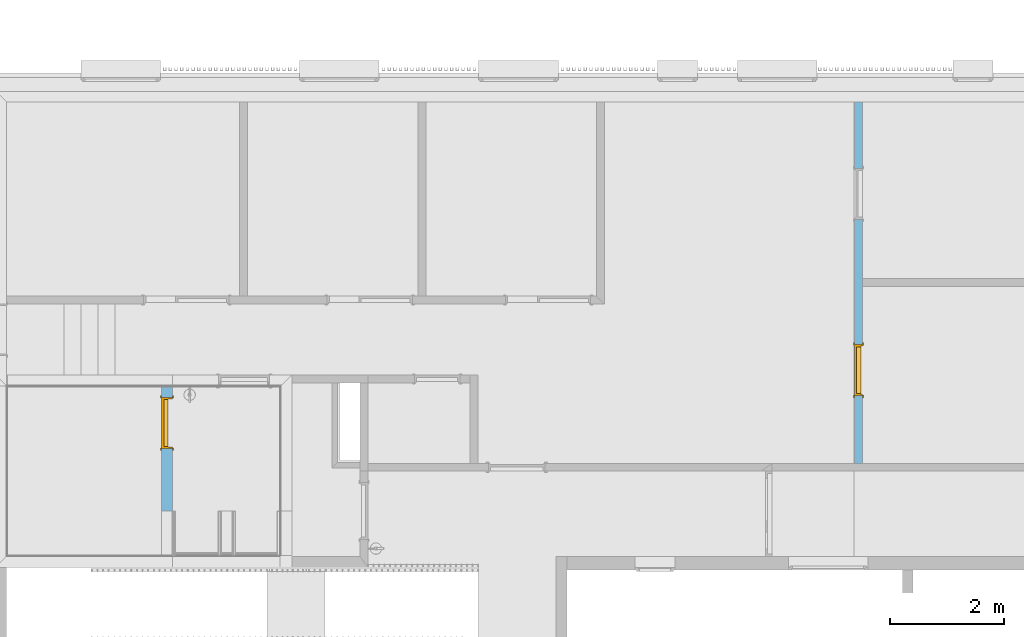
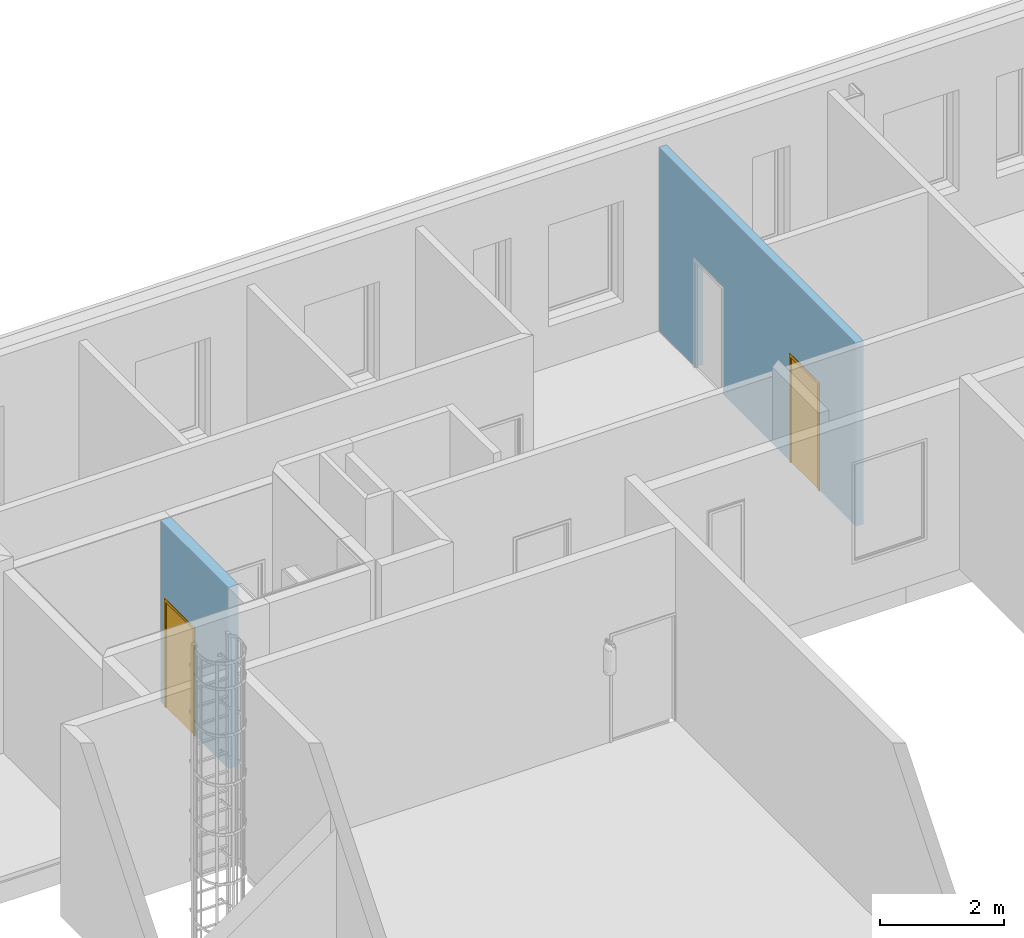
# One storey, part 53 of 100: 2 doors, 3 openings, plus 2 elements that do not belong to this part.
"""IFC2X3 building model written with IfcOpenShell, lengths in millimetres."""

from ifc_helpers import new_model, entity, si_unit, converted_unit, derived_unit, money_unit, direction, frame, origin_with_axes, origin_2d_with_axis, place, context, subcontext, project, spatial, polyline, rectangle, outline, extrude, faceted_brep, material, layer, layer_set, layer_usage, type_object, element, fill, save


model = new_model("IFC2X3")

# Units and contexts
model_context = context("Model", 3, precision=0.01, world=origin_with_axes(), true_north=direction((0.0, 1.0)))
body_context = subcontext(model_context, "Body", "Model", "MODEL_VIEW")
ifc_project = project(units=[si_unit("LENGTHUNIT", "METRE", prefix="MILLI"), si_unit("AREAUNIT", "SQUARE_METRE"), si_unit("VOLUMEUNIT", "CUBIC_METRE"), converted_unit("PLANEANGLEUNIT", "DEGREE", entity("IfcPlaneAngleMeasure", 0.0174532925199), si_unit("PLANEANGLEUNIT", "RADIAN"), dimensions=[0, 0, 0, 0, 0, 0, 0]), si_unit("SOLIDANGLEUNIT", "STERADIAN"), money_unit("EUR"), converted_unit("TIMEUNIT", "Year", entity("IfcTimeMeasure", 31556926.0), si_unit("TIMEUNIT", "SECOND"), dimensions=[0, 0, 1, 0, 0, 0, 0]), si_unit("MASSUNIT", "GRAM", prefix="KILO"), si_unit("THERMODYNAMICTEMPERATUREUNIT", "DEGREE_CELSIUS"), si_unit("LUMINOUSINTENSITYUNIT", "LUMEN"), si_unit("ENERGYUNIT", "JOULE", prefix="MEGA"), derived_unit("THERMALCONDUCTANCEUNIT", [(si_unit("POWERUNIT", "WATT"), 1), (si_unit("LENGTHUNIT", "METRE"), -1), (si_unit("THERMODYNAMICTEMPERATUREUNIT", "KELVIN"), -1)]), derived_unit("SPECIFICHEATCAPACITYUNIT", [(si_unit("ENERGYUNIT", "JOULE"), 1), (si_unit("MASSUNIT", "GRAM", prefix="KILO"), -1), (si_unit("THERMODYNAMICTEMPERATUREUNIT", "KELVIN"), -1)]), derived_unit("MASSDENSITYUNIT", [(si_unit("MASSUNIT", "GRAM", prefix="KILO"), 1), (si_unit("VOLUMEUNIT", "CUBIC_METRE"), -1)])], contexts=[model_context])

# Site, building, storey
site_placement = place(None, origin_with_axes())
site = spatial("IfcSite", under=ifc_project, at=site_placement, Name="Politse- ja Piirivalveameti ning Päästeameti ühishoone", CompositionType="ELEMENT")
building_placement = place(site_placement, origin_with_axes())
building = spatial("IfcBuilding", under=site, at=building_placement, Name="Politse- ja Piirivalveameti ning Päästeameti ühishoone", CompositionType="ELEMENT")
storey_placement = place(building_placement, frame((0.0, 0.0, 3800.0), z_axis=(0.0, 0.0, 1.0), x_axis=(1.0, 0.0, 0.0)))
storey = spatial("IfcBuildingStorey", under=building, at=storey_placement, Name="Teine korrus", CompositionType="ELEMENT", Elevation=3800.0)

# Wall, opening, door
ifc_material = material(Name="KON-05_Betoon Plokk - Konstuktsioon")
ifc_layer_1 = layer(ifc_material, 190.0, ventilated="UNKNOWN")
ifc_layer_set_1 = layer_set([ifc_layer_1], Name="SS-03_Sisesein 190")
ifc_layer_usage_1 = layer_usage(ifc_layer_set_1, "AXIS2", "NEGATIVE", 0.0)
wall_type_1 = type_object("IfcWallType", Name="SS-03_Sisesein 190 190", PredefinedType="NOTDEFINED")
wall_1_placement = place(storey_placement, frame((19820.0260184, 15984.8176113, 0.0), z_axis=(0.0, 0.0, 1.0), x_axis=(0.0, -1.0, 0.0)))
wall_1 = element("IfcWallStandardCase", 1, at=wall_1_placement, inside=storey, type_object=wall_type_1, material=ifc_layer_usage_1, Name="SS-03", context=body_context, shape_type="SweptSolid", body=[
    extrude(outline(polyline([(0.0, -190.0), (2184.79775023, -190.0), (2184.79775023, 0.0), (0.0, 0.0), (0.0, -190.0)])), origin_with_axes(), (0.0, 0.0, 1.0), 3576.54246345),
])
opening_1_placement = place(wall_1_placement, frame((635.717927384, 0.0, 0.0), z_axis=(0.0, 0.0, 1.0), x_axis=(1.0, 0.0, 0.0)))
opening_1 = element("IfcOpeningElement", 2, at=opening_1_placement, cuts=wall_1, Name="SU-01-1", context=body_context, shape_type="SweptSolid", body=[
    extrude(rectangle(XDim=900.0, YDim=2100.0, at=origin_2d_with_axis()), frame((0.0, 190.0, 1050.0), z_axis=(0.0, -1.0, 0.0), x_axis=(-1.0, 0.0, 0.0)), (0.0, 0.0, 1.0), 570.0),
    extrude(rectangle(XDim=974.0, YDim=2137.0, at=origin_2d_with_axis()), frame((0.0, 0.0, 1068.5), z_axis=(0.0, -1.0, 0.0), x_axis=(-1.0, 0.0, 0.0)), (0.0, 0.0, -1.0), 190.0),
    extrude(rectangle(XDim=974.0, YDim=2137.0, at=origin_2d_with_axis()), frame((0.0, -190.0, 1068.5), z_axis=(0.0, 1.0, 0.0), x_axis=(-1.0, 0.0, 0.0)), (0.0, 0.0, -1.0), 190.0),
])
door_style_1 = type_object("IfcDoorStyle", Name="Door 23", ConstructionType="NOTDEFINED", OperationType="SINGLE_SWING_RIGHT", ParameterTakesPrecedence=False, Sizeable=False)
door_1_placement = place(opening_1_placement, frame((450.0, 0.0, 0.0), z_axis=(0.0, 0.0, 1.0), x_axis=(-1.0, 0.0, 0.0)))
door_1 = element("IfcDoor", 3, at=door_1_placement, inside=storey, type_object=door_style_1, Name="SU-01-1", ObjectType="DOOR", OverallHeight=2100.0, OverallWidth=900.0, context=body_context, shape_type="Brep", body=[
    faceted_brep([(872.0, 150.0, 0.0), (872.0, 150.0, 12.0), (860.0, 150.0, 12.0), (860.0, 150.0, 0.0), (28.0, 150.0, 0.0), (28.0, 150.0, 12.0), (40.0, 150.0, 12.0), (40.0, 75.0, 12.0), (860.0, 75.0, 12.0), (860.0, 75.0, 0.0), (40.0, 75.0, 0.0), (40.0, 150.0, 0.0)], [[[0, 1, 2, 3]], [[4, 5, 1, 0]], [[1, 5, 6, 7, 8, 2]], [[3, 2, 8, 9]], [[0, 3, 9, 10, 11, 4]], [[11, 6, 5, 4]], [[10, 7, 6, 11]], [[9, 8, 7, 10]]]),
    faceted_brep([(0.0, 75.0, 0.0), (25.0, 75.0, 0.0), (25.0, 0.0, 0.0), (0.0, 0.0, 0.0), (0.0, 75.0, 2100.0), (25.0, 75.0, 2075.0), (25.0, 0.0, 2075.0), (0.0, 0.0, 2100.0)], [[[0, 1, 2, 3]], [[0, 4, 5, 1]], [[1, 5, 6, 2]], [[3, 2, 6, 7]], [[4, 0, 3, 7]], [[5, 4, 7, 6]]]),
    faceted_brep([(900.0, 75.0, 2100.0), (875.0, 75.0, 2075.0), (875.0, 0.0, 2075.0), (900.0, 0.0, 2100.0), (900.0, 75.0, 0.0), (875.0, 75.0, 0.0), (875.0, 0.0, 0.0), (900.0, 0.0, 0.0)], [[[0, 1, 2, 3]], [[0, 4, 5, 1]], [[1, 5, 6, 2]], [[3, 2, 6, 7]], [[4, 0, 3, 7]], [[5, 4, 7, 6]]]),
    faceted_brep([(25.0, 75.0, 2075.0), (875.0, 75.0, 2075.0), (875.0, 0.0, 2075.0), (25.0, 0.0, 2075.0), (0.0, 75.0, 2100.0), (900.0, 75.0, 2100.0), (900.0, 0.0, 2100.0), (0.0, 0.0, 2100.0)], [[[0, 1, 2, 3]], [[0, 4, 5, 1]], [[1, 5, 6, 2]], [[3, 2, 6, 7]], [[4, 0, 3, 7]], [[5, 4, 7, 6]]]),
    faceted_brep([(-37.0, -19.0, 0.0), (-37.0, 0.0, 0.0), (13.0, 0.0, 0.0), (13.0, -19.0, 0.0), (-37.0, -19.0, 2137.0), (-37.0, 0.0, 2137.0), (13.0, 0.0, 2087.0), (13.0, -19.0, 2087.0)], [[[0, 1, 2, 3]], [[4, 5, 1, 0]], [[1, 5, 6, 2]], [[3, 2, 6, 7]], [[0, 3, 7, 4]], [[7, 6, 5, 4]]]),
    faceted_brep([(937.0, -19.0, 2137.0), (937.0, 0.0, 2137.0), (887.0, 0.0, 2087.0), (887.0, -19.0, 2087.0), (937.0, -19.0, 0.0), (937.0, 0.0, 0.0), (887.0, 0.0, 0.0), (887.0, -19.0, 0.0)], [[[0, 1, 2, 3]], [[4, 5, 1, 0]], [[1, 5, 6, 2]], [[3, 2, 6, 7]], [[0, 3, 7, 4]], [[7, 6, 5, 4]]]),
    faceted_brep([(-37.0, -19.0, 2137.0), (-37.0, 0.0, 2137.0), (13.0, 0.0, 2087.0), (13.0, -19.0, 2087.0), (937.0, -19.0, 2137.0), (937.0, 0.0, 2137.0), (887.0, 0.0, 2087.0), (887.0, -19.0, 2087.0)], [[[0, 1, 2, 3]], [[4, 5, 1, 0]], [[1, 5, 6, 2]], [[3, 2, 6, 7]], [[0, 3, 7, 4]], [[7, 6, 5, 4]]]),
    faceted_brep([(-37.0, 209.0, 0.0), (13.0, 209.0, 0.0), (13.0, 190.0, 0.0), (-37.0, 190.0, 0.0), (-37.0, 209.0, 2137.0), (13.0, 209.0, 2087.0), (13.0, 190.0, 2087.0), (-37.0, 190.0, 2137.0)], [[[0, 1, 2, 3]], [[0, 4, 5, 1]], [[1, 5, 6, 2]], [[3, 2, 6, 7]], [[4, 0, 3, 7]], [[5, 4, 7, 6]]]),
    faceted_brep([(937.0, 209.0, 2137.0), (887.0, 209.0, 2087.0), (887.0, 190.0, 2087.0), (937.0, 190.0, 2137.0), (937.0, 209.0, 0.0), (887.0, 209.0, 0.0), (887.0, 190.0, 0.0), (937.0, 190.0, 0.0)], [[[0, 1, 2, 3]], [[0, 4, 5, 1]], [[1, 5, 6, 2]], [[3, 2, 6, 7]], [[4, 0, 3, 7]], [[5, 4, 7, 6]]]),
    faceted_brep([(-37.0, 209.0, 2137.0), (13.0, 209.0, 2087.0), (13.0, 190.0, 2087.0), (-37.0, 190.0, 2137.0), (937.0, 209.0, 2137.0), (887.0, 209.0, 2087.0), (887.0, 190.0, 2087.0), (937.0, 190.0, 2137.0)], [[[0, 1, 2, 3]], [[0, 4, 5, 1]], [[1, 5, 6, 2]], [[3, 2, 6, 7]], [[4, 0, 3, 7]], [[5, 4, 7, 6]]]),
    faceted_brep([(40.0, 150.0, 0.0), (40.0, 150.0, 2060.0), (40.0, 75.0, 2060.0), (40.0, 75.0, 0.0), (28.0, 150.0, 2060.0), (28.0, 150.0, 0.0), (28.0, 190.0, 2060.0), (0.0, 190.0, 2060.0), (0.0, 75.0, 2060.0), (0.0, 75.0, 0.0), (0.0, 190.0, 0.0), (28.0, 190.0, 0.0)], [[[0, 1, 2, 3]], [[4, 1, 0, 5]], [[4, 6, 7, 8, 2, 1]], [[3, 2, 8, 9]], [[5, 0, 3, 9, 10, 11]], [[6, 4, 5, 11]], [[6, 11, 10, 7]], [[10, 9, 8, 7]]]),
    faceted_brep([(872.0, 150.0, 2060.0), (860.0, 150.0, 2060.0), (860.0, 75.0, 2060.0), (900.0, 75.0, 2060.0), (900.0, 190.0, 2060.0), (872.0, 190.0, 2060.0), (872.0, 150.0, 0.0), (860.0, 150.0, 0.0), (860.0, 75.0, 0.0), (900.0, 75.0, 0.0), (900.0, 190.0, 0.0), (872.0, 190.0, 0.0)], [[[0, 1, 2, 3, 4, 5]], [[1, 0, 6, 7]], [[1, 7, 8, 2]], [[3, 2, 8, 9]], [[4, 3, 9, 10]], [[11, 5, 4, 10]], [[0, 5, 11, 6]], [[6, 11, 10, 9, 8, 7]]]),
    faceted_brep([(28.0, 190.0, 2072.0), (28.0, 190.0, 2060.0), (0.0, 190.0, 2060.0), (0.0, 190.0, 2100.0), (900.0, 190.0, 2100.0), (900.0, 190.0, 2060.0), (872.0, 190.0, 2060.0), (872.0, 190.0, 2072.0), (28.0, 150.0, 2072.0), (28.0, 150.0, 2060.0), (40.0, 150.0, 2060.0), (40.0, 75.0, 2060.0), (0.0, 75.0, 2060.0), (0.0, 75.0, 2100.0), (900.0, 75.0, 2100.0), (900.0, 75.0, 2060.0), (872.0, 150.0, 2060.0), (860.0, 75.0, 2060.0), (860.0, 150.0, 2060.0), (872.0, 150.0, 2072.0)], [[[0, 1, 2, 3, 4, 5, 6, 7]], [[1, 0, 8, 9]], [[9, 10, 11, 12, 2, 1]], [[2, 12, 13, 3]], [[3, 13, 14, 4]], [[4, 14, 15, 5]], [[16, 6, 5, 15, 17, 18]], [[7, 6, 16, 19]], [[0, 7, 19, 8]], [[16, 18, 10, 9, 8, 19]], [[10, 18, 17, 11]], [[17, 15, 14, 13, 12, 11]]]),
    faceted_brep([(872.0, 190.0, 0.0), (872.0, 150.0, 0.0), (28.0, 150.0, 0.0), (28.0, 190.0, 0.0), (872.0, 190.0, 2072.0), (872.0, 150.0, 2072.0), (28.0, 150.0, 2072.0), (28.0, 190.0, 2072.0)], [[[0, 1, 2, 3]], [[4, 5, 1, 0]], [[1, 5, 6, 2]], [[3, 2, 6, 7]], [[0, 3, 7, 4]], [[7, 6, 5, 4]]]),
])
fill(opening_1, door_1)

# Wall, openings, door
ifc_layer_2 = layer(ifc_material, 140.0, ventilated="UNKNOWN")
ifc_layer_set_2 = layer_set([ifc_layer_2], Name="SS-02_Sisesein 140")
ifc_layer_usage_2 = layer_usage(ifc_layer_set_2, "AXIS2", "NEGATIVE", 0.0)
wall_type_2 = type_object("IfcWallType", Name="SS-02_Sisesein 140 140", PredefinedType="NOTDEFINED")
wall_2_placement = place(storey_placement, frame((31959.7100495, 20999.9525809, 0.0), z_axis=(0.0, 0.0, 1.0), x_axis=(0.0, -1.0, 0.0)))
wall_2 = element("IfcWallStandardCase", 4, at=wall_2_placement, inside=storey, type_object=wall_type_2, material=ifc_layer_usage_2, Name="SS-02", context=body_context, shape_type="SweptSolid", body=[
    extrude(outline(polyline([(-7.49983968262e-05, -140.0), (6359.91042811, -140.0), (6359.91042811, 0.0), (-8.03724056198e-05, 0.0), (-7.49983968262e-05, -140.0)])), origin_with_axes(), (0.0, 0.0, 1.0), 3620.0),
])
opening_2_placement = place(wall_2_placement, frame((1620.43760814, 0.0, 0.0), z_axis=(0.0, 0.0, 1.0), x_axis=(1.0, 0.0, 0.0)))
element("IfcOpeningElement", 5, at=opening_2_placement, cuts=wall_2, Name="SU-02-2", context=body_context, shape_type="SweptSolid", body=[
    extrude(rectangle(XDim=900.0, YDim=2100.0, at=origin_2d_with_axis()), frame((0.0, -140.0, 1050.0), z_axis=(0.0, 1.0, 0.0), x_axis=(-1.0, 0.0, 0.0)), (0.0, 0.0, 1.0), 420.0),
    extrude(rectangle(XDim=974.0, YDim=2137.0, at=origin_2d_with_axis()), frame((0.0, -140.0, 1068.5), z_axis=(0.0, 1.0, 0.0), x_axis=(-1.0, 0.0, 0.0)), (0.0, 0.0, -1.0), 140.0),
    extrude(rectangle(XDim=974.0, YDim=2137.0, at=origin_2d_with_axis()), frame((0.0, 0.0, 1068.5), z_axis=(0.0, -1.0, 0.0), x_axis=(-1.0, 0.0, 0.0)), (0.0, 0.0, -1.0), 140.0),
])
opening_3_placement = place(wall_2_placement, frame((4720.46114588, 0.0, 0.0), z_axis=(0.0, 0.0, 1.0), x_axis=(1.0, 0.0, 0.0)))
opening_3 = element("IfcOpeningElement", 6, at=opening_3_placement, cuts=wall_2, Name="SU-02-2", context=body_context, shape_type="SweptSolid", body=[
    extrude(rectangle(XDim=900.0, YDim=2100.0, at=origin_2d_with_axis()), frame((0.0, 140.0, 1050.0), z_axis=(0.0, -1.0, 0.0), x_axis=(-1.0, 0.0, 0.0)), (0.0, 0.0, 1.0), 420.0),
    extrude(rectangle(XDim=974.0, YDim=2137.0, at=origin_2d_with_axis()), frame((0.0, 0.0, 1068.5), z_axis=(0.0, -1.0, 0.0), x_axis=(-1.0, 0.0, 0.0)), (0.0, 0.0, -1.0), 140.0),
    extrude(rectangle(XDim=974.0, YDim=2137.0, at=origin_2d_with_axis()), frame((0.0, -140.0, 1068.5), z_axis=(0.0, 1.0, 0.0), x_axis=(-1.0, 0.0, 0.0)), (0.0, 0.0, -1.0), 140.0),
])
door_style_2 = type_object("IfcDoorStyle", Name="Door 23", ConstructionType="NOTDEFINED", OperationType="SINGLE_SWING_RIGHT", ParameterTakesPrecedence=False, Sizeable=False)
door_2_placement = place(opening_3_placement, frame((450.0, 0.0, 0.0), z_axis=(0.0, 0.0, 1.0), x_axis=(-1.0, 0.0, 0.0)))
door_2 = element("IfcDoor", 7, at=door_2_placement, inside=storey, type_object=door_style_2, Name="SU-02-2", ObjectType="DOOR", OverallHeight=2100.0, OverallWidth=900.0, context=body_context, shape_type="Brep", body=[
    faceted_brep([(872.0, 100.0, 0.0), (872.0, 100.0, 12.0), (860.0, 100.0, 12.0), (860.0, 100.0, 0.0), (28.0, 100.0, 0.0), (28.0, 100.0, 12.0), (40.0, 100.0, 12.0), (40.0, 25.0, 12.0), (860.0, 25.0, 12.0), (860.0, 25.0, 0.0), (40.0, 25.0, 0.0), (40.0, 100.0, 0.0)], [[[0, 1, 2, 3]], [[4, 5, 1, 0]], [[1, 5, 6, 7, 8, 2]], [[3, 2, 8, 9]], [[0, 3, 9, 10, 11, 4]], [[11, 6, 5, 4]], [[10, 7, 6, 11]], [[9, 8, 7, 10]]]),
    faceted_brep([(0.0, 25.0, 0.0), (25.0, 25.0, 0.0), (25.0, 0.0, 0.0), (0.0, 0.0, 0.0), (0.0, 25.0, 2100.0), (25.0, 25.0, 2075.0), (25.0, 0.0, 2075.0), (0.0, 0.0, 2100.0)], [[[0, 1, 2, 3]], [[0, 4, 5, 1]], [[1, 5, 6, 2]], [[3, 2, 6, 7]], [[4, 0, 3, 7]], [[5, 4, 7, 6]]]),
    faceted_brep([(900.0, 25.0, 2100.0), (875.0, 25.0, 2075.0), (875.0, 0.0, 2075.0), (900.0, 0.0, 2100.0), (900.0, 25.0, 0.0), (875.0, 25.0, 0.0), (875.0, 0.0, 0.0), (900.0, 0.0, 0.0)], [[[0, 1, 2, 3]], [[0, 4, 5, 1]], [[1, 5, 6, 2]], [[3, 2, 6, 7]], [[4, 0, 3, 7]], [[5, 4, 7, 6]]]),
    faceted_brep([(25.0, 25.0, 2075.0), (875.0, 25.0, 2075.0), (875.0, 0.0, 2075.0), (25.0, 0.0, 2075.0), (0.0, 25.0, 2100.0), (900.0, 25.0, 2100.0), (900.0, 0.0, 2100.0), (0.0, 0.0, 2100.0)], [[[0, 1, 2, 3]], [[0, 4, 5, 1]], [[1, 5, 6, 2]], [[3, 2, 6, 7]], [[4, 0, 3, 7]], [[5, 4, 7, 6]]]),
    faceted_brep([(-37.0, -19.0, 0.0), (-37.0, 0.0, 0.0), (13.0, 0.0, 0.0), (13.0, -19.0, 0.0), (-37.0, -19.0, 2137.0), (-37.0, 0.0, 2137.0), (13.0, 0.0, 2087.0), (13.0, -19.0, 2087.0)], [[[0, 1, 2, 3]], [[4, 5, 1, 0]], [[1, 5, 6, 2]], [[3, 2, 6, 7]], [[0, 3, 7, 4]], [[7, 6, 5, 4]]]),
    faceted_brep([(937.0, -19.0, 2137.0), (937.0, 0.0, 2137.0), (887.0, 0.0, 2087.0), (887.0, -19.0, 2087.0), (937.0, -19.0, 0.0), (937.0, 0.0, 0.0), (887.0, 0.0, 0.0), (887.0, -19.0, 0.0)], [[[0, 1, 2, 3]], [[4, 5, 1, 0]], [[1, 5, 6, 2]], [[3, 2, 6, 7]], [[0, 3, 7, 4]], [[7, 6, 5, 4]]]),
    faceted_brep([(-37.0, -19.0, 2137.0), (-37.0, 0.0, 2137.0), (13.0, 0.0, 2087.0), (13.0, -19.0, 2087.0), (937.0, -19.0, 2137.0), (937.0, 0.0, 2137.0), (887.0, 0.0, 2087.0), (887.0, -19.0, 2087.0)], [[[0, 1, 2, 3]], [[4, 5, 1, 0]], [[1, 5, 6, 2]], [[3, 2, 6, 7]], [[0, 3, 7, 4]], [[7, 6, 5, 4]]]),
    faceted_brep([(-37.0, 159.0, 0.0), (13.0, 159.0, 0.0), (13.0, 140.0, 0.0), (-37.0, 140.0, 0.0), (-37.0, 159.0, 2137.0), (13.0, 159.0, 2087.0), (13.0, 140.0, 2087.0), (-37.0, 140.0, 2137.0)], [[[0, 1, 2, 3]], [[0, 4, 5, 1]], [[1, 5, 6, 2]], [[3, 2, 6, 7]], [[4, 0, 3, 7]], [[5, 4, 7, 6]]]),
    faceted_brep([(937.0, 159.0, 2137.0), (887.0, 159.0, 2087.0), (887.0, 140.0, 2087.0), (937.0, 140.0, 2137.0), (937.0, 159.0, 0.0), (887.0, 159.0, 0.0), (887.0, 140.0, 0.0), (937.0, 140.0, 0.0)], [[[0, 1, 2, 3]], [[0, 4, 5, 1]], [[1, 5, 6, 2]], [[3, 2, 6, 7]], [[4, 0, 3, 7]], [[5, 4, 7, 6]]]),
    faceted_brep([(-37.0, 159.0, 2137.0), (13.0, 159.0, 2087.0), (13.0, 140.0, 2087.0), (-37.0, 140.0, 2137.0), (937.0, 159.0, 2137.0), (887.0, 159.0, 2087.0), (887.0, 140.0, 2087.0), (937.0, 140.0, 2137.0)], [[[0, 1, 2, 3]], [[0, 4, 5, 1]], [[1, 5, 6, 2]], [[3, 2, 6, 7]], [[4, 0, 3, 7]], [[5, 4, 7, 6]]]),
    faceted_brep([(40.0, 100.0, 0.0), (40.0, 100.0, 2060.0), (40.0, 25.0, 2060.0), (40.0, 25.0, 0.0), (28.0, 100.0, 2060.0), (28.0, 100.0, 0.0), (28.0, 140.0, 2060.0), (0.0, 140.0, 2060.0), (0.0, 25.0, 2060.0), (0.0, 25.0, 0.0), (0.0, 140.0, 0.0), (28.0, 140.0, 0.0)], [[[0, 1, 2, 3]], [[4, 1, 0, 5]], [[4, 6, 7, 8, 2, 1]], [[3, 2, 8, 9]], [[5, 0, 3, 9, 10, 11]], [[6, 4, 5, 11]], [[6, 11, 10, 7]], [[10, 9, 8, 7]]]),
    faceted_brep([(872.0, 100.0, 2060.0), (860.0, 100.0, 2060.0), (860.0, 25.0, 2060.0), (900.0, 25.0, 2060.0), (900.0, 140.0, 2060.0), (872.0, 140.0, 2060.0), (872.0, 100.0, 0.0), (860.0, 100.0, 0.0), (860.0, 25.0, 0.0), (900.0, 25.0, 0.0), (900.0, 140.0, 0.0), (872.0, 140.0, 0.0)], [[[0, 1, 2, 3, 4, 5]], [[1, 0, 6, 7]], [[1, 7, 8, 2]], [[3, 2, 8, 9]], [[4, 3, 9, 10]], [[11, 5, 4, 10]], [[0, 5, 11, 6]], [[6, 11, 10, 9, 8, 7]]]),
    faceted_brep([(28.0, 140.0, 2072.0), (28.0, 140.0, 2060.0), (0.0, 140.0, 2060.0), (0.0, 140.0, 2100.0), (900.0, 140.0, 2100.0), (900.0, 140.0, 2060.0), (872.0, 140.0, 2060.0), (872.0, 140.0, 2072.0), (28.0, 100.0, 2072.0), (28.0, 100.0, 2060.0), (40.0, 100.0, 2060.0), (40.0, 25.0, 2060.0), (0.0, 25.0, 2060.0), (0.0, 25.0, 2100.0), (900.0, 25.0, 2100.0), (900.0, 25.0, 2060.0), (872.0, 100.0, 2060.0), (860.0, 25.0, 2060.0), (860.0, 100.0, 2060.0), (872.0, 100.0, 2072.0)], [[[0, 1, 2, 3, 4, 5, 6, 7]], [[1, 0, 8, 9]], [[9, 10, 11, 12, 2, 1]], [[2, 12, 13, 3]], [[3, 13, 14, 4]], [[4, 14, 15, 5]], [[16, 6, 5, 15, 17, 18]], [[7, 6, 16, 19]], [[0, 7, 19, 8]], [[16, 18, 10, 9, 8, 19]], [[10, 18, 17, 11]], [[17, 15, 14, 13, 12, 11]]]),
    faceted_brep([(872.0, 140.0, 0.0), (872.0, 100.0, 0.0), (28.0, 100.0, 0.0), (28.0, 140.0, 0.0), (872.0, 140.0, 2072.0), (872.0, 100.0, 2072.0), (28.0, 100.0, 2072.0), (28.0, 140.0, 2072.0)], [[[0, 1, 2, 3]], [[4, 5, 1, 0]], [[1, 5, 6, 2]], [[3, 2, 6, 7]], [[0, 3, 7, 4]], [[7, 6, 5, 4]]]),
])
fill(opening_3, door_2)

save(model, "model.ifc")
